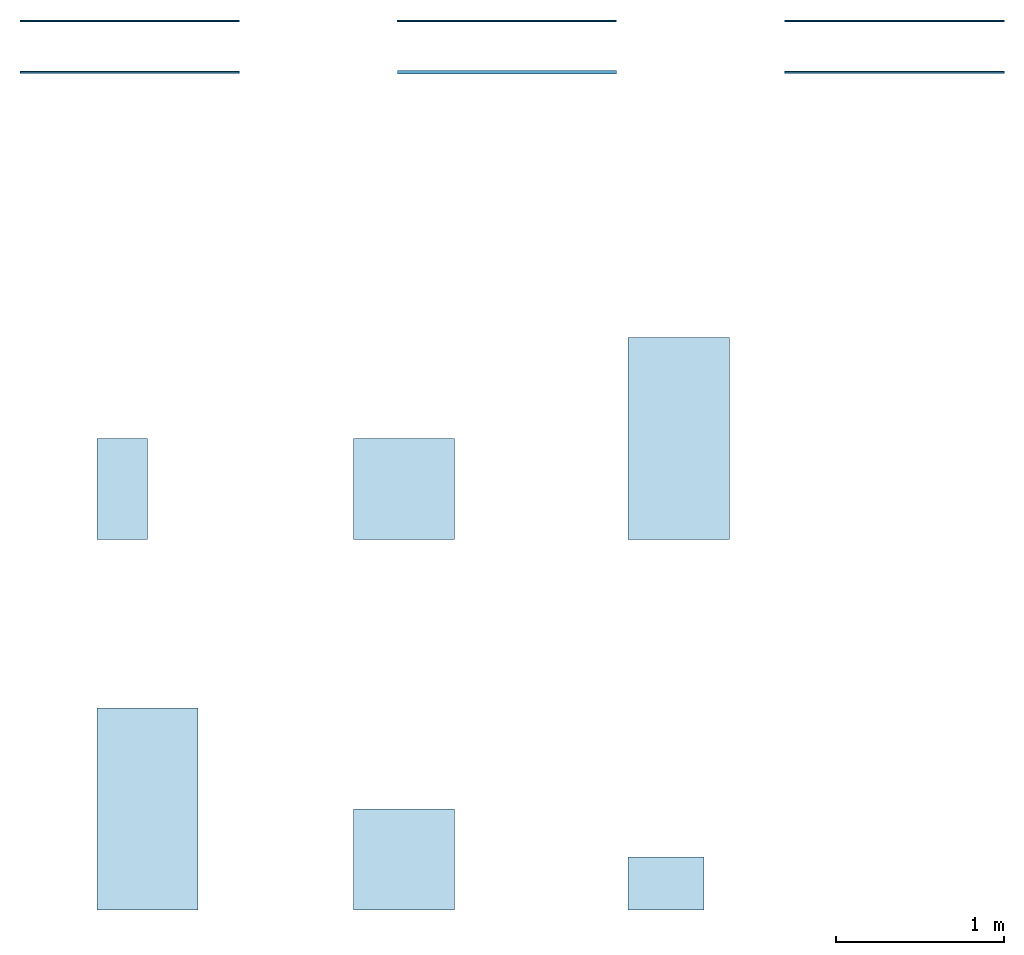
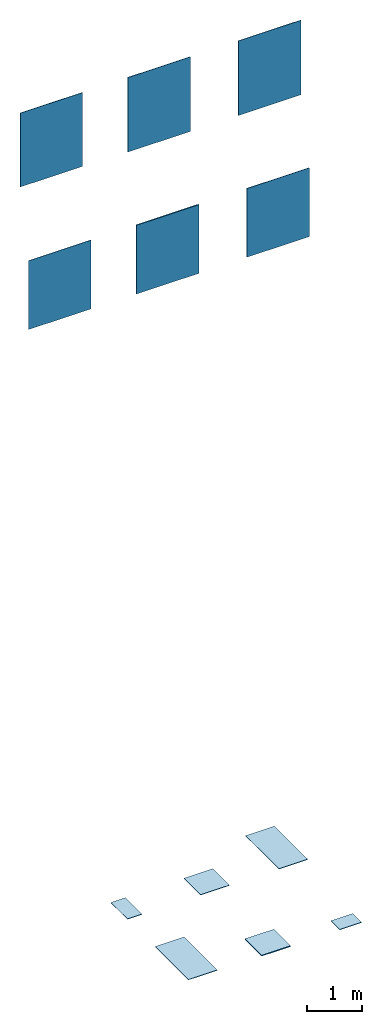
# One storey: 6 slabs, 6 walls.
"""IFC2X3 building model written with IfcOpenShell, lengths in millimetres."""

from ifc_helpers import new_model, entity, si_unit, converted_unit, derived_unit, direction, frame, frame_2d, origin, origin_2d_with_axis, place, context, subcontext, project, spatial, rectangle, extrude, material, layer, layer_set, layer_usage, type_object, element, save


model = new_model("IFC2X3")

# Units and contexts
model_context = context("Model", 3, precision=0.01, world=origin(), true_north=direction((6.12303176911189e-17, 1.0)))
body_context = subcontext(model_context, "Body", "Model", "MODEL_VIEW")
ifc_project = project(units=[si_unit("LENGTHUNIT", "METRE", prefix="MILLI"), si_unit("AREAUNIT", "SQUARE_METRE"), si_unit("VOLUMEUNIT", "CUBIC_METRE"), converted_unit("PLANEANGLEUNIT", "DEGREE", entity("IfcRatioMeasure", 0.0174532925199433), si_unit("PLANEANGLEUNIT", "RADIAN"), dimensions=[0, 0, 0, 0, 0, 0, 0]), si_unit("MASSUNIT", "GRAM", prefix="KILO"), derived_unit("MASSDENSITYUNIT", [(si_unit("MASSUNIT", "GRAM", prefix="KILO"), 1), (si_unit("LENGTHUNIT", "METRE"), -3)]), derived_unit("MOMENTOFINERTIAUNIT", [(si_unit("LENGTHUNIT", "METRE"), 4)]), si_unit("TIMEUNIT", "SECOND"), si_unit("FREQUENCYUNIT", "HERTZ"), si_unit("THERMODYNAMICTEMPERATUREUNIT", "DEGREE_CELSIUS"), derived_unit("THERMALTRANSMITTANCEUNIT", [(si_unit("MASSUNIT", "GRAM", prefix="KILO"), 1), (si_unit("THERMODYNAMICTEMPERATUREUNIT", "KELVIN"), -1), (si_unit("TIMEUNIT", "SECOND"), -3)]), derived_unit("VOLUMETRICFLOWRATEUNIT", [(si_unit("LENGTHUNIT", "METRE"), 3), (si_unit("TIMEUNIT", "SECOND"), -1)]), si_unit("ELECTRICCURRENTUNIT", "AMPERE"), si_unit("ELECTRICVOLTAGEUNIT", "VOLT"), si_unit("POWERUNIT", "WATT"), si_unit("FORCEUNIT", "NEWTON", prefix="KILO"), si_unit("ILLUMINANCEUNIT", "LUX"), si_unit("LUMINOUSFLUXUNIT", "LUMEN"), si_unit("LUMINOUSINTENSITYUNIT", "CANDELA"), derived_unit("USERDEFINED", [(si_unit("MASSUNIT", "GRAM", prefix="KILO"), -1), (si_unit("LENGTHUNIT", "METRE"), -2), (si_unit("TIMEUNIT", "SECOND"), 3), (si_unit("LUMINOUSFLUXUNIT", "LUMEN"), 1)]), derived_unit("LINEARVELOCITYUNIT", [(si_unit("LENGTHUNIT", "METRE"), 1), (si_unit("TIMEUNIT", "SECOND"), -1)]), si_unit("PRESSUREUNIT", "PASCAL"), derived_unit("USERDEFINED", [(si_unit("LENGTHUNIT", "METRE"), -2), (si_unit("MASSUNIT", "GRAM", prefix="KILO"), 1), (si_unit("TIMEUNIT", "SECOND"), -2)]), derived_unit("LINEARFORCEUNIT", [(si_unit("MASSUNIT", "GRAM", prefix="KILO"), 1), (si_unit("LENGTHUNIT", "METRE"), 1), (si_unit("TIMEUNIT", "SECOND"), -2), (si_unit("LENGTHUNIT", "METRE"), -1)]), derived_unit("PLANARFORCEUNIT", [(si_unit("MASSUNIT", "GRAM", prefix="KILO"), 1), (si_unit("LENGTHUNIT", "METRE"), 1), (si_unit("TIMEUNIT", "SECOND"), -2), (si_unit("LENGTHUNIT", "METRE"), -2)])], contexts=[model_context])

# Site, building, storey
site_placement = place(None, origin())
site = spatial("IfcSite", under=ifc_project, at=site_placement, Name="Default", CompositionType="ELEMENT")
building_placement = place(site_placement, origin())
building = spatial("IfcBuilding", under=site, at=building_placement, CompositionType="ELEMENT")
storey_placement = place(building_placement, origin())
storey = spatial("IfcBuildingStorey", under=building, at=storey_placement, Name="Level 0", CompositionType="ELEMENT", Elevation=0.0)

# Slabs
ifc_material_1 = material(Name="Blended-Dark-60x120 OA54")
ifc_layer_1 = layer(ifc_material_1, 9.0)
ifc_material_2 = material(Name="<Unnamed>")
ifc_layer_2 = layer(ifc_material_2, 1.0)
ifc_layer_set_1 = layer_set([ifc_layer_1, ifc_layer_2], Name="Floor:Floor_Tiles_Refin-Blended-Dark-60x120 OA54")
ifc_layer_usage_1 = layer_usage(ifc_layer_set_1, "AXIS3", "POSITIVE", 0.0)
slab_type_1 = type_object("IfcSlabType", Name="Floor:Floor_Tiles_Refin-Blended-Dark-60x120 OA54", PredefinedType="FLOOR", material=ifc_layer_set_1)
slab_1_placement = place(storey_placement, origin())
element("IfcSlab", 1, at=slab_1_placement, inside=storey, type_object=slab_type_1, material=ifc_layer_usage_1, Name="Floor:Floor_Tiles_Refin-Blended-Dark-60x120 OA54", ObjectType="Floor:Floor_Tiles_Refin-Blended-Dark-60x120 OA54", PredefinedType="FLOOR", context=body_context, shape_type="SweptSolid", body=[
    extrude(rectangle(XDim=1200.0, YDim=600.0, at=frame_2d((0.0, 1.08002495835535e-12), x_axis=(1.0, 0.0))), frame((9827.18614186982, 5659.46237428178, 0.0), z_axis=(0.0, 0.0, -1.0), x_axis=(0.0, 1.0, 0.0)), (0.0, 0.0, 1.0), 10.0),
])
ifc_material_3 = material(Name="Blended-Dark-30x60 OA89")
ifc_layer_3 = layer(ifc_material_3, 9.0)
ifc_layer_4 = layer(ifc_material_2, 1.0)
ifc_layer_set_2 = layer_set([ifc_layer_3, ifc_layer_4], Name="Floor:Floor_Tiles_Refin-Blended-Dark-30x60 OA89")
ifc_layer_usage_2 = layer_usage(ifc_layer_set_2, "AXIS3", "POSITIVE", 0.0)
slab_type_2 = type_object("IfcSlabType", Name="Floor:Floor_Tiles_Refin-Blended-Dark-30x60 OA89", PredefinedType="FLOOR", material=ifc_layer_set_2)
slab_2_placement = place(storey_placement, origin())
element("IfcSlab", 2, at=slab_2_placement, inside=storey, type_object=slab_type_2, material=ifc_layer_usage_2, Name="Floor:Floor_Tiles_Refin-Blended-Dark-30x60 OA89", ObjectType="Floor:Floor_Tiles_Refin-Blended-Dark-30x60 OA89", PredefinedType="FLOOR", context=body_context, shape_type="SweptSolid", body=[
    extrude(rectangle(XDim=600.0, YDim=300.0, at=frame_2d((0.0, -5.40012479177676e-13), x_axis=(1.0, 0.0))), frame((6524.37520617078, 5359.4623742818, 0.0), z_axis=(0.0, 0.0, -1.0), x_axis=(0.0, 1.0, 0.0)), (0.0, 0.0, 1.0), 10.0),
])
ifc_material_4 = material(Name="Blended-Dark-OUT2.0-60x60 OA94")
ifc_layer_5 = layer(ifc_material_4, 20.0)
ifc_layer_6 = layer(ifc_material_2, 1.0)
ifc_layer_set_3 = layer_set([ifc_layer_5, ifc_layer_6], Name="Floor:Floor_Tiles_Refin-Blended-Dark-OUT2.0_60X60_OA94")
ifc_layer_usage_3 = layer_usage(ifc_layer_set_3, "AXIS3", "POSITIVE", 0.0)
slab_type_3 = type_object("IfcSlabType", Name="Floor:Floor_Tiles_Refin-Blended-Dark-OUT2.0_60X60_OA94", PredefinedType="FLOOR", material=ifc_layer_set_3)
slab_3_placement = place(storey_placement, origin())
element("IfcSlab", 3, at=slab_3_placement, inside=storey, type_object=slab_type_3, material=ifc_layer_usage_3, Name="Floor:Floor_Tiles_Refin-Blended-Dark-OUT2.0_60X60_OA94", ObjectType="Floor:Floor_Tiles_Refin-Blended-Dark-OUT2.0_60X60_OA94", PredefinedType="FLOOR", context=body_context, shape_type="SweptSolid", body=[
    extrude(rectangle(XDim=600.0, YDim=600.0, at=frame_2d((0.0, -1.08002495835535e-12), x_axis=(1.0, 0.0))), frame((8197.39240545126, 3159.4623742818, 0.0), z_axis=(0.0, 0.0, -1.0), x_axis=(0.0, 1.0, 0.0)), (0.0, 0.0, 1.0), 21.0),
])
ifc_material_5 = material(Name="Blended-Dark-GRIP-60x120 OB65")
ifc_layer_7 = layer(ifc_material_5, 9.0)
ifc_layer_8 = layer(ifc_material_2, 1.0)
ifc_layer_set_4 = layer_set([ifc_layer_7, ifc_layer_8], Name="Floor:Floor_Tiles_Refin-Blended-Dark-GRIP-60x120 OB65")
ifc_layer_usage_4 = layer_usage(ifc_layer_set_4, "AXIS3", "POSITIVE", 0.0)
slab_type_4 = type_object("IfcSlabType", Name="Floor:Floor_Tiles_Refin-Blended-Dark-GRIP-60x120 OB65", PredefinedType="FLOOR", material=ifc_layer_set_4)
slab_4_placement = place(storey_placement, origin())
element("IfcSlab", 4, at=slab_4_placement, inside=storey, type_object=slab_type_4, material=ifc_layer_usage_4, Name="Floor:Floor_Tiles_Refin-Blended-Dark-GRIP-60x120 OB65", ObjectType="Floor:Floor_Tiles_Refin-Blended-Dark-GRIP-60x120 OB65", PredefinedType="FLOOR", context=body_context, shape_type="SweptSolid", body=[
    extrude(rectangle(XDim=1200.0, YDim=600.0, at=frame_2d((0.0, 1.08002495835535e-12), x_axis=(1.0, 0.0))), frame((6674.37520617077, 3459.4623742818, 0.0), z_axis=(0.0, 0.0, -1.0), x_axis=(0.0, 1.0, 0.0)), (0.0, 0.0, 1.0), 10.0),
])
ifc_material_6 = material(Name="Blended-Dark-Muretto-3D-31.5x45 NX92")
ifc_layer_9 = layer(ifc_material_6, 10.0)
ifc_layer_10 = layer(ifc_material_2, 1.0)
ifc_layer_set_5 = layer_set([ifc_layer_9, ifc_layer_10], Name="Floor:Floor_Tiles_Refin-Blended-Dark-MURETTO_3D-31.5x45 NX92")
ifc_layer_usage_5 = layer_usage(ifc_layer_set_5, "AXIS3", "POSITIVE", 0.0)
slab_type_5 = type_object("IfcSlabType", Name="Floor:Floor_Tiles_Refin-Blended-Dark-MURETTO_3D-31.5x45 NX92", PredefinedType="FLOOR", material=ifc_layer_set_5)
slab_5_placement = place(storey_placement, origin())
element("IfcSlab", 5, at=slab_5_placement, inside=storey, type_object=slab_type_5, material=ifc_layer_usage_5, Name="Floor:Floor_Tiles_Refin-Blended-Dark-MURETTO_3D-31.5x45 NX92", ObjectType="Floor:Floor_Tiles_Refin-Blended-Dark-MURETTO_3D-31.5x45 NX92", PredefinedType="FLOOR", context=body_context, shape_type="SweptSolid", body=[
    extrude(rectangle(XDim=315.0, YDim=449.999999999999, at=frame_2d((0.0, 1.08002495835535e-12), x_axis=(1.0, 0.0))), frame((9750.41186876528, 3016.9623742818, 0.0), z_axis=(0.0, 0.0, -1.0), x_axis=(0.0, 1.0, 0.0)), (0.0, 0.0, 1.0), 11.0),
])
ifc_material_7 = material(Name="Blended-Dark-60x60 OA84")
ifc_layer_11 = layer(ifc_material_7, 9.0)
ifc_layer_12 = layer(ifc_material_2, 1.0)
ifc_layer_set_6 = layer_set([ifc_layer_11, ifc_layer_12], Name="Floor:Floor_Tiles_Refin-Blended-Dark-60x60 OA84")
ifc_layer_usage_6 = layer_usage(ifc_layer_set_6, "AXIS3", "POSITIVE", 0.0)
slab_type_6 = type_object("IfcSlabType", Name="Floor:Floor_Tiles_Refin-Blended-Dark-60x60 OA84", PredefinedType="FLOOR", material=ifc_layer_set_6)
slab_6_placement = place(storey_placement, origin())
element("IfcSlab", 6, at=slab_6_placement, inside=storey, type_object=slab_type_6, material=ifc_layer_usage_6, Name="Floor:Floor_Tiles_Refin-Blended-Dark-60x60 OA84", ObjectType="Floor:Floor_Tiles_Refin-Blended-Dark-60x60 OA84", PredefinedType="FLOOR", context=body_context, shape_type="SweptSolid", body=[
    extrude(rectangle(XDim=600.0, YDim=600.0, at=origin_2d_with_axis()), frame((8197.39240545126, 5358.41920639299, 0.0), z_axis=(0.0, 0.0, -1.0), x_axis=(0.0, 1.0, 0.0)), (0.0, 0.0, 1.0), 10.0),
])

# Walls
ifc_layer_13 = layer(ifc_material_2, 1.0)
ifc_layer_14 = layer(ifc_material_7, 9.0)
ifc_layer_set_7 = layer_set([ifc_layer_13, ifc_layer_14], Name="Basic Wall:Wall_Tiles_Refin-Blended-Dark-60x60 OA84")
ifc_layer_usage_7 = layer_usage(ifc_layer_set_7, "AXIS2", "NEGATIVE", 5.0)
wall_type_1 = type_object("IfcWallType", Name="Basic Wall:Wall_Tiles_Refin-Blended-Dark-60x60 OA84", PredefinedType="STANDARD", material=ifc_layer_set_7)
wall_1_placement = place(storey_placement, frame((8157.37520617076, 8137.38386313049, 14387.6770443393)))
element("IfcWallStandardCase", 7, at=wall_1_placement, inside=storey, type_object=wall_type_1, material=ifc_layer_usage_7, Name="Basic Wall:Wall_Tiles_Refin-Blended-Dark-60x60 OA84", ObjectType="Basic Wall:Wall_Tiles_Refin-Blended-Dark-60x60 OA84", context=body_context, shape_type="SweptSolid", body=[
    extrude(rectangle(XDim=1300.0, YDim=9.99999999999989, at=frame_2d((650.0, 7.63833440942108e-14), x_axis=(-1.0, 0.0))), origin(), (0.0, 0.0, 1.0), 1641.74173522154),
])
ifc_layer_15 = layer(ifc_material_2, 1.0)
ifc_layer_16 = layer(ifc_material_1, 9.0)
ifc_layer_set_8 = layer_set([ifc_layer_15, ifc_layer_16], Name="Basic Wall:Wall_Tiles_Refin-Blended-Dark-60x120 OA54")
ifc_layer_usage_8 = layer_usage(ifc_layer_set_8, "AXIS2", "NEGATIVE", 5.0)
wall_type_2 = type_object("IfcWallType", Name="Basic Wall:Wall_Tiles_Refin-Blended-Dark-60x120 OA54", PredefinedType="STANDARD", material=ifc_layer_set_8)
wall_2_placement = place(storey_placement, frame((10457.3752061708, 8137.38386313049, 14387.6770443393)))
element("IfcWallStandardCase", 8, at=wall_2_placement, inside=storey, type_object=wall_type_2, material=ifc_layer_usage_8, Name="Basic Wall:Wall_Tiles_Refin-Blended-Dark-60x120 OA54", ObjectType="Basic Wall:Wall_Tiles_Refin-Blended-Dark-60x120 OA54", context=body_context, shape_type="SweptSolid", body=[
    extrude(rectangle(XDim=1300.0, YDim=9.99999999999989, at=frame_2d((650.0, 7.63833440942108e-14), x_axis=(-1.0, 0.0))), origin(), (0.0, 0.0, 1.0), 1641.74173522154),
])
ifc_layer_17 = layer(ifc_material_2, 1.0)
ifc_layer_18 = layer(ifc_material_3, 9.0)
ifc_layer_set_9 = layer_set([ifc_layer_17, ifc_layer_18], Name="Basic Wall:Wall_Tiles_Refin-Blended-Dark-30x60 OA89")
ifc_layer_usage_9 = layer_usage(ifc_layer_set_9, "AXIS2", "NEGATIVE", 5.0)
wall_type_3 = type_object("IfcWallType", Name="Basic Wall:Wall_Tiles_Refin-Blended-Dark-30x60 OA89", PredefinedType="STANDARD", material=ifc_layer_set_9)
wall_3_placement = place(storey_placement, frame((5917.37520617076, 8137.38386313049, 14403.726734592)))
element("IfcWallStandardCase", 9, at=wall_3_placement, inside=storey, type_object=wall_type_3, material=ifc_layer_usage_9, Name="Basic Wall:Wall_Tiles_Refin-Blended-Dark-30x60 OA89", ObjectType="Basic Wall:Wall_Tiles_Refin-Blended-Dark-30x60 OA89", context=body_context, shape_type="SweptSolid", body=[
    extrude(rectangle(XDim=1300.0, YDim=9.99999999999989, at=frame_2d((650.0, 7.63833440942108e-14), x_axis=(-1.0, 0.0))), origin(), (0.0, 0.0, 1.0), 1625.69204496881),
])
ifc_layer_19 = layer(ifc_material_2, 1.0)
ifc_layer_20 = layer(ifc_material_5, 9.0)
ifc_layer_set_10 = layer_set([ifc_layer_19, ifc_layer_20], Name="Basic Wall:Wall_Tiles_Refin-Blended-Dark-GRIP-60x120 OB65")
ifc_layer_usage_10 = layer_usage(ifc_layer_set_10, "AXIS2", "NEGATIVE", 5.0)
wall_type_4 = type_object("IfcWallType", Name="Basic Wall:Wall_Tiles_Refin-Blended-Dark-GRIP-60x120 OB65", PredefinedType="STANDARD", material=ifc_layer_set_10)
wall_4_placement = place(storey_placement, frame((5917.37520617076, 7832.38386313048, 11452.5436262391)))
element("IfcWallStandardCase", 10, at=wall_4_placement, inside=storey, type_object=wall_type_4, material=ifc_layer_usage_10, Name="Basic Wall:Wall_Tiles_Refin-Blended-Dark-GRIP-60x120 OB65", ObjectType="Basic Wall:Wall_Tiles_Refin-Blended-Dark-GRIP-60x120 OB65", context=body_context, shape_type="SweptSolid", body=[
    extrude(rectangle(XDim=1300.0, YDim=9.99999999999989, at=frame_2d((650.0, 0.0), x_axis=(-1.0, 0.0))), origin(), (0.0, 0.0, 1.0), 1513.19855655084),
])
ifc_layer_21 = layer(ifc_material_2, 1.0)
ifc_layer_22 = layer(ifc_material_4, 20.0)
ifc_layer_set_11 = layer_set([ifc_layer_21, ifc_layer_22], Name="Basic Wall:Wall_Tiles_Refin-Blended-Dark-OUT2.0-60x60 OA94")
ifc_layer_usage_11 = layer_usage(ifc_layer_set_11, "AXIS2", "NEGATIVE", 10.5)
wall_type_5 = type_object("IfcWallType", Name="Basic Wall:Wall_Tiles_Refin-Blended-Dark-OUT2.0-60x60 OA94", PredefinedType="STANDARD", material=ifc_layer_set_11)
wall_5_placement = place(storey_placement, frame((8157.37520617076, 7832.38386313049, 11452.5436262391)))
element("IfcWallStandardCase", 11, at=wall_5_placement, inside=storey, type_object=wall_type_5, material=ifc_layer_usage_11, Name="Basic Wall:Wall_Tiles_Refin-Blended-Dark-OUT2.0-60x60 OA94", ObjectType="Basic Wall:Wall_Tiles_Refin-Blended-Dark-OUT2.0-60x60 OA94", context=body_context, shape_type="SweptSolid", body=[
    extrude(rectangle(XDim=1300.0, YDim=20.9999999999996, at=frame_2d((650.0, 0.0), x_axis=(-1.0, 0.0))), origin(), (0.0, 0.0, 1.0), 1513.19855655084),
])
ifc_layer_23 = layer(ifc_material_2, 1.0)
ifc_layer_24 = layer(ifc_material_6, 10.0)
ifc_layer_set_12 = layer_set([ifc_layer_23, ifc_layer_24], Name="Basic Wall:Wall_Tiles_Refin-Blended-Dark-MURETTO_3D-31.5x45 NX92")
ifc_layer_usage_12 = layer_usage(ifc_layer_set_12, "AXIS2", "NEGATIVE", 5.5)
wall_type_6 = type_object("IfcWallType", Name="Basic Wall:Wall_Tiles_Refin-Blended-Dark-MURETTO_3D-31.5x45 NX92", PredefinedType="STANDARD", material=ifc_layer_set_12)
wall_6_placement = place(storey_placement, frame((10457.3752061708, 7832.38386313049, 11452.5436262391)))
element("IfcWallStandardCase", 12, at=wall_6_placement, inside=storey, type_object=wall_type_6, material=ifc_layer_usage_12, Name="Basic Wall:Wall_Tiles_Refin-Blended-Dark-MURETTO_3D-31.5x45 NX92", ObjectType="Basic Wall:Wall_Tiles_Refin-Blended-Dark-MURETTO_3D-31.5x45 NX92", context=body_context, shape_type="SweptSolid", body=[
    extrude(rectangle(XDim=1300.0, YDim=10.9999999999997, at=frame_2d((650.000000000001, 0.0), x_axis=(-1.0, 0.0))), origin(), (0.0, 0.0, 1.0), 1513.19855655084),
])

save(model, "model.ifc")
